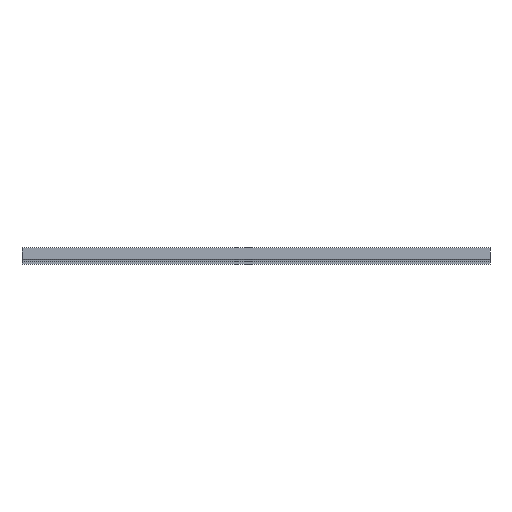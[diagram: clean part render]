
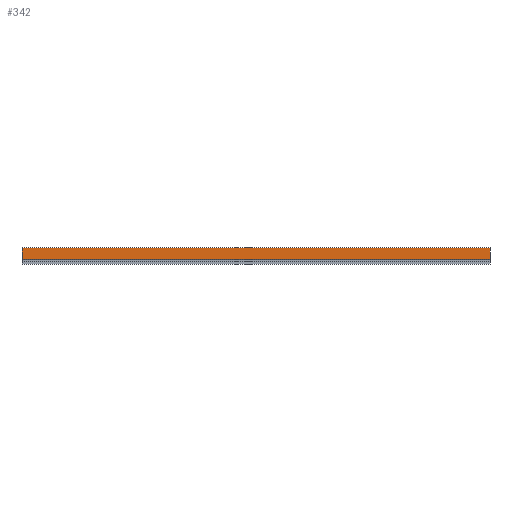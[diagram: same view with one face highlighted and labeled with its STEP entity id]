
A CAD part, left-side view. The second image highlights one B-rep face of the part: STEP entity #342.
In plain terms, the highlighted planar face has unit normal (-1, 0, 0).
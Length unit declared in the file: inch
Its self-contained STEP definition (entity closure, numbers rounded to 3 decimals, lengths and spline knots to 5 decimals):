
#23=PLANE('',#390);
#40=FACE_OUTER_BOUND('',#58,.T.);
#58=EDGE_LOOP('',(#279,#280,#281,#282));
#92=LINE('',#576,#128);
#93=LINE('',#579,#129);
#94=LINE('',#581,#130);
#95=LINE('',#582,#131);
#128=VECTOR('',#474,0.3937);
#129=VECTOR('',#477,0.3937);
#130=VECTOR('',#478,0.3937);
#131=VECTOR('',#479,0.3937);
#173=VERTEX_POINT('',#572);
#174=VERTEX_POINT('',#574);
#175=VERTEX_POINT('',#578);
#176=VERTEX_POINT('',#580);
#218=EDGE_CURVE('',#173,#174,#92,.T.);
#219=EDGE_CURVE('',#175,#173,#93,.T.);
#220=EDGE_CURVE('',#176,#174,#94,.T.);
#221=EDGE_CURVE('',#175,#176,#95,.T.);
#279=ORIENTED_EDGE('',*,*,#219,.T.);
#280=ORIENTED_EDGE('',*,*,#218,.T.);
#281=ORIENTED_EDGE('',*,*,#220,.F.);
#282=ORIENTED_EDGE('',*,*,#221,.F.);
#342=ADVANCED_FACE('',(#40),#23,.T.);
#390=AXIS2_PLACEMENT_3D('',#577,#475,#476);
#474=DIRECTION('',(0.,1.,0.));
#475=DIRECTION('center_axis',(-1.,0.,0.));
#476=DIRECTION('ref_axis',(0.,0.,1.));
#477=DIRECTION('',(0.,0.,1.));
#478=DIRECTION('',(0.,0.,1.));
#479=DIRECTION('',(0.,1.,0.));
#572=CARTESIAN_POINT('',(-0.27064,0.,-0.63524));
#574=CARTESIAN_POINT('',(-0.27064,120.,-0.63524));
#576=CARTESIAN_POINT('',(-0.27064,0.,-0.63524));
#577=CARTESIAN_POINT('Origin',(-0.27064,0.,-3.61179));
#578=CARTESIAN_POINT('',(-0.27064,0.,-3.61179));
#579=CARTESIAN_POINT('',(-0.27064,0.,-3.61179));
#580=CARTESIAN_POINT('',(-0.27064,120.,-3.61179));
#581=CARTESIAN_POINT('',(-0.27064,120.,-3.61179));
#582=CARTESIAN_POINT('',(-0.27064,0.,-3.61179));
